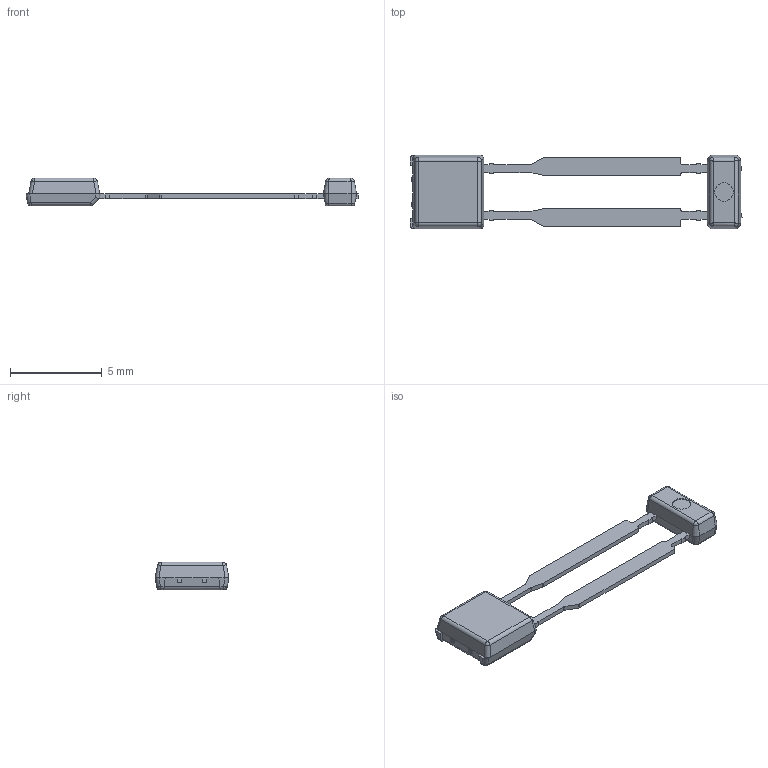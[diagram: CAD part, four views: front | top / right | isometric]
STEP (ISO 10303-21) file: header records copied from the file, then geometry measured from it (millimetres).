
FILE_DESCRIPTION (( 'STEP AP214' ), '1' );
FILE_NAME ('UB.STEP', '2016-10-25T19:00:22', ( '' ), ( '' ), 'SwSTEP 2.0', 'SolidWorks 2014', '' );
FILE_SCHEMA (( 'AUTOMOTIVE_DESIGN' ));
Length unit declared in the file: millimetre
Products named in the file (1): UB
Bounding box: 18.05 x 4 x 1.5 mm (x, y, z)
Volume: 35.5 mm3; surface area: 126.9 mm2
Topology: 1 solids, 1 shells, 182 faces, 461 edges, 278 vertices
Faces by surface type: plane 108, cylinder 50, sphere 8, cone 8, bspline 4, torus 4
Entity records: 7945 total; most frequent: CARTESIAN_POINT 1598, ORIENTED_EDGE 914, DIRECTION 875, EDGE_CURVE 457, LINE 341, VECTOR 341, VERTEX_POINT 278, AXIS2_PLACEMENT_3D 267
